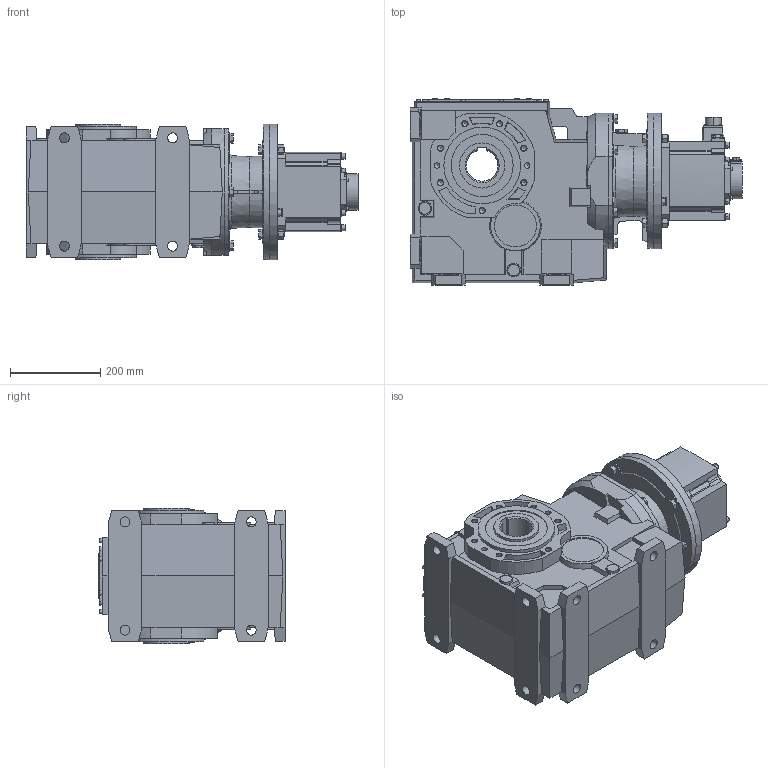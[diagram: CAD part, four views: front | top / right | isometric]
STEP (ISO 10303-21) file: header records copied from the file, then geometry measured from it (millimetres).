
FILE_DESCRIPTION(('FreeCAD Model'),'2;1');
FILE_NAME('Open CASCADE Shape Model','2023-08-25T13:14:58',('Author'),( ''),'Open CASCADE STEP processor 7.6','FreeCAD','Unknown');
FILE_SCHEMA(('AUTOMOTIVE_DESIGN { 1 0 10303 214 1 1 1 1 }'));
Length unit declared in the file: millimetre
Products named in the file (4): Unnamed; 132 18_001; hg-sr502_1_001; 143 133_001
Assembly tree (3 placements, depth 2):
  Unnamed
    132 18_001
    hg-sr502_1_001
    143 133_001
Bounding box: 736 x 413 x 300 mm (x, y, z)
Volume: 45308079.4 mm3; surface area: 1914818.6 mm2
Topology: 5 solids, 6 shells, 1120 faces, 2820 edges, 1863 vertices
Faces by surface type: plane 699, cylinder 347, cone 73, torus 1
Full cylindrical faces by diameter (mm): 9.1 x3, 10 x12, 11.835 x14, 12 x12, 22 x8, 26 x3, 28 x2, 30 x5, 46 x1, 55 x1, 93 x2, 100 x2, 110 x1, 137.501 x2, 170 x2, 230 x1, 250 x2, 300 x2
Entity records: 38887 total; most frequent: CARTESIAN_POINT 6271, DIRECTION 5708, ORIENTED_EDGE 5604, EDGE_CURVE 2802, AXIS2_PLACEMENT_3D 1990, VERTEX_POINT 1863, LINE 1728, VECTOR 1728
